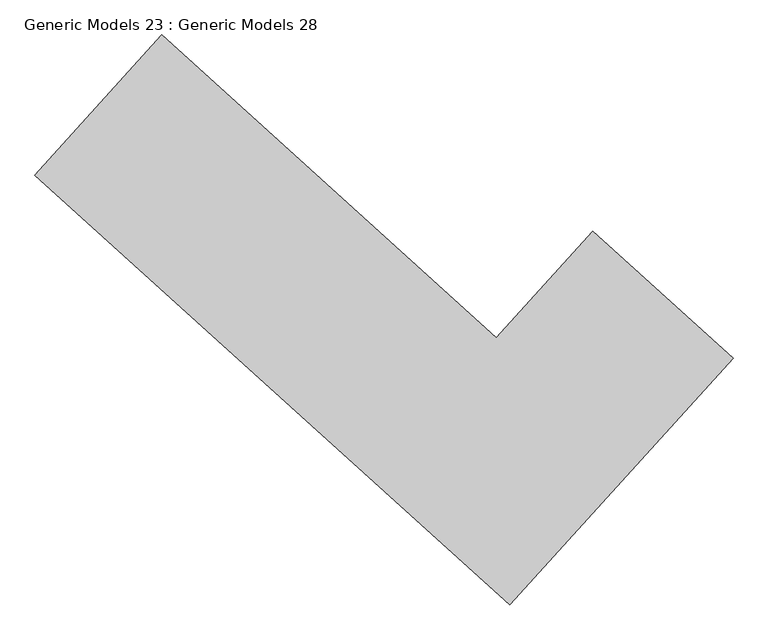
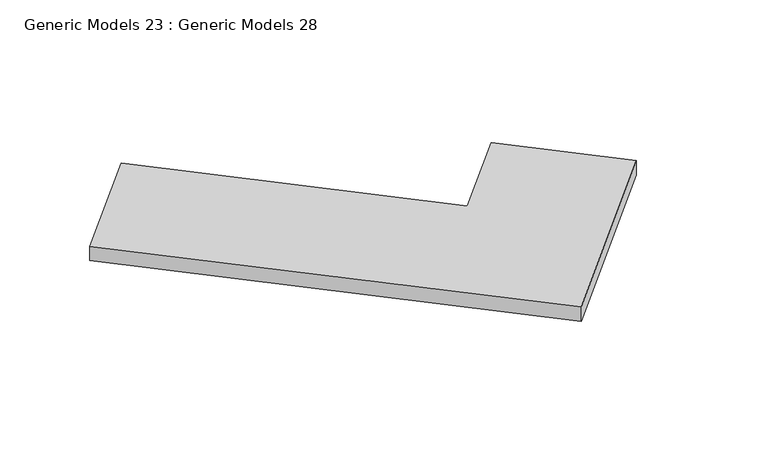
"""IFC4 building model written with IfcOpenShell, lengths in millimetres: proxy geometry, Generic Models 23 : Generic Models 28."""

from ifc_helpers import new_model, si_unit, frame, origin, place, context, project, spatial, polyline, outline, extrude, source, transform, mapped, element, save


def generic_models_23_generic_models_28_fe558099(model_context):
    return source(origin(), model_context, "Body", "SweptSolid", [
        extrude(outline(polyline([(-9762.3443305, -4399.8044219), (-9317.5265145, -4802.5750815), (-10026.5963718, -5585.6681342), (-11533.208148, -4221.4713844), (-11130.4862001, -3776.7073653), (-10068.6922399, -4738.1334555), (-9762.3443305, -4399.8044219)])), frame((0.0, 0.0, 830.0), z_axis=(0.0, 0.0, 1.0), x_axis=(1.0, 0.0, 0.0)), (0.0, 0.0, 1.0), 70.0),
    ])


if __name__ == "__main__":
    model = new_model("IFC4")
    model_context = context("Model", 3, world=origin())
    ifc_project = project(units=[si_unit("LENGTHUNIT", "METRE", prefix="MILLI")], contexts=[model_context])
    site = spatial("IfcSite", under=ifc_project)
    building = spatial("IfcBuilding", under=site)
    placement = place(None, origin())
    generic_models_23_generic_models_28_shape = generic_models_23_generic_models_28_fe558099(model_context)
    element("IfcBuildingElementProxy", 1, Name="Generic Models 23 : Generic Models 28", ObjectType="Generic Models 23 : Generic Models 28", at=placement, inside=building, context=model_context, shape_type="MappedRepresentation", body=[
        mapped(generic_models_23_generic_models_28_shape, transform((0.0, 0.0, 0.0), x_axis=(1.0, 0.0, 0.0), y_axis=(0.0, 1.0, 0.0), z_axis=(0.0, 0.0, 1.0))),
    ])
    save(model, "model.ifc")
